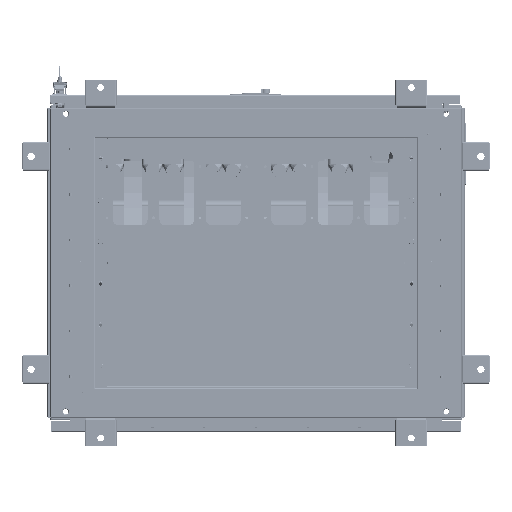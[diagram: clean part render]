
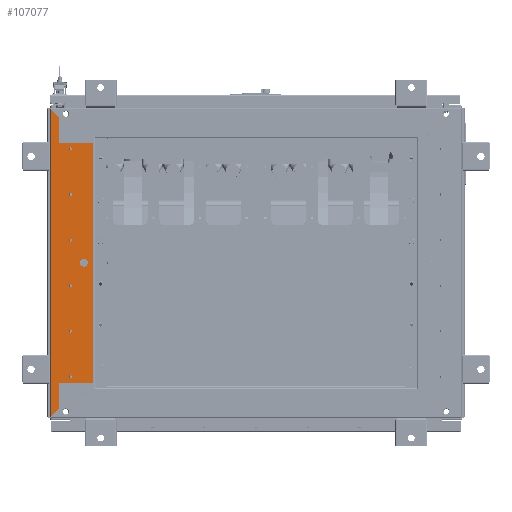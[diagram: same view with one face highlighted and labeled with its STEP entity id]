
A CAD part, front view. The second image highlights one B-rep face of the part: STEP entity #107077.
In plain terms, the highlighted planar face has unit normal (0, -1, 0).
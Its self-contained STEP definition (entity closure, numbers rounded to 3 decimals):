
#106132=DIRECTION('',(-1.,0.,0.));
#106133=VECTOR('',#106132,464.);
#106134=CARTESIAN_POINT('',(232.,-1.5,41.5));
#106135=LINE('',#106134,#106133);
#106140=DIRECTION('',(0.,0.,1.));
#106141=VECTOR('',#106140,66.5);
#106142=CARTESIAN_POINT('',(232.,-1.5,-25.));
#106143=LINE('',#106142,#106141);
#106156=DIRECTION('',(0.707,0.,-0.707));
#106157=VECTOR('',#106156,20.506);
#106158=CARTESIAN_POINT('',(282.,-1.5,-25.));
#106159=LINE('',#106158,#106157);
#106160=DIRECTION('',(0.707,0.,0.707));
#106161=VECTOR('',#106160,20.506);
#106162=CARTESIAN_POINT('',(-296.5,-1.5,-39.5));
#106163=LINE('',#106162,#106161);
#106164=DIRECTION('',(1.,0.,0.));
#106165=VECTOR('',#106164,50.);
#106166=CARTESIAN_POINT('',(-282.,-1.5,-25.));
#106167=LINE('',#106166,#106165);
#106168=DIRECTION('',(0.,0.,1.));
#106169=VECTOR('',#106168,66.5);
#106170=CARTESIAN_POINT('',(-232.,-1.5,-25.));
#106171=LINE('',#106170,#106169);
#106172=DIRECTION('',(1.,0.,0.));
#106173=VECTOR('',#106172,50.);
#106174=CARTESIAN_POINT('',(232.,-1.5,-25.));
#106175=LINE('',#106174,#106173);
#106176=CARTESIAN_POINT('',(220.,-1.5,-2.5));
#106177=DIRECTION('',(0.,-1.,0.));
#106178=DIRECTION('',(1.,0.,0.));
#106179=AXIS2_PLACEMENT_3D('',#106176,#106177,#106178);
#106181=CARTESIAN_POINT('',(220.,-1.5,-2.5));
#106182=DIRECTION('',(0.,-1.,0.));
#106183=DIRECTION('',(-1.,0.,0.));
#106184=AXIS2_PLACEMENT_3D('',#106181,#106182,#106183);
#106186=CARTESIAN_POINT('',(132.,-1.5,-2.5));
#106187=DIRECTION('',(0.,-1.,0.));
#106188=DIRECTION('',(1.,0.,0.));
#106189=AXIS2_PLACEMENT_3D('',#106186,#106187,#106188);
#106191=CARTESIAN_POINT('',(132.,-1.5,-2.5));
#106192=DIRECTION('',(0.,-1.,0.));
#106193=DIRECTION('',(-1.,0.,0.));
#106194=AXIS2_PLACEMENT_3D('',#106191,#106192,#106193);
#106196=CARTESIAN_POINT('',(44.,-1.5,-2.5));
#106197=DIRECTION('',(0.,-1.,0.));
#106198=DIRECTION('',(1.,0.,0.));
#106199=AXIS2_PLACEMENT_3D('',#106196,#106197,#106198);
#106201=CARTESIAN_POINT('',(44.,-1.5,-2.5));
#106202=DIRECTION('',(0.,-1.,0.));
#106203=DIRECTION('',(-1.,0.,0.));
#106204=AXIS2_PLACEMENT_3D('',#106201,#106202,#106203);
#106206=CARTESIAN_POINT('',(-44.,-1.5,-2.5));
#106207=DIRECTION('',(0.,-1.,0.));
#106208=DIRECTION('',(1.,0.,0.));
#106209=AXIS2_PLACEMENT_3D('',#106206,#106207,#106208);
#106211=CARTESIAN_POINT('',(-44.,-1.5,-2.5));
#106212=DIRECTION('',(0.,-1.,0.));
#106213=DIRECTION('',(-1.,0.,0.));
#106214=AXIS2_PLACEMENT_3D('',#106211,#106212,#106213);
#106216=CARTESIAN_POINT('',(-132.,-1.5,-2.5));
#106217=DIRECTION('',(0.,-1.,0.));
#106218=DIRECTION('',(1.,0.,0.));
#106219=AXIS2_PLACEMENT_3D('',#106216,#106217,#106218);
#106221=CARTESIAN_POINT('',(-132.,-1.5,-2.5));
#106222=DIRECTION('',(0.,-1.,0.));
#106223=DIRECTION('',(-1.,0.,0.));
#106224=AXIS2_PLACEMENT_3D('',#106221,#106222,#106223);
#106226=CARTESIAN_POINT('',(-220.,-1.5,-2.5));
#106227=DIRECTION('',(0.,-1.,0.));
#106228=DIRECTION('',(1.,0.,0.));
#106229=AXIS2_PLACEMENT_3D('',#106226,#106227,#106228);
#106231=CARTESIAN_POINT('',(-220.,-1.5,-2.5));
#106232=DIRECTION('',(0.,-1.,0.));
#106233=DIRECTION('',(-1.,0.,0.));
#106234=AXIS2_PLACEMENT_3D('',#106231,#106232,#106233);
#106236=CARTESIAN_POINT('',(0.,-1.5,23.5));
#106237=DIRECTION('',(0.,-1.,0.));
#106238=DIRECTION('',(0.,0.,1.));
#106239=AXIS2_PLACEMENT_3D('',#106236,#106237,#106238);
#106241=CARTESIAN_POINT('',(0.,-1.5,23.5));
#106242=DIRECTION('',(0.,-1.,0.));
#106243=DIRECTION('',(0.,0.,-1.));
#106244=AXIS2_PLACEMENT_3D('',#106241,#106242,#106243);
#106266=DIRECTION('',(1.,0.,0.));
#106267=VECTOR('',#106266,593.);
#106268=CARTESIAN_POINT('',(-296.5,-1.5,-39.5));
#106269=LINE('',#106268,#106267);
#106538=CARTESIAN_POINT('',(296.5,-1.5,-39.5));
#106539=VERTEX_POINT('',#106538);
#106540=CARTESIAN_POINT('',(282.,-1.5,-25.));
#106541=VERTEX_POINT('',#106540);
#106546=CARTESIAN_POINT('',(-296.5,-1.5,-39.5));
#106547=VERTEX_POINT('',#106546);
#106549=CARTESIAN_POINT('',(-282.,-1.5,-25.));
#106550=VERTEX_POINT('',#106549);
#106551=CARTESIAN_POINT('',(-232.,-1.5,-25.));
#106552=VERTEX_POINT('',#106551);
#106553=CARTESIAN_POINT('',(-232.,-1.5,41.5));
#106554=VERTEX_POINT('',#106553);
#106555=CARTESIAN_POINT('',(232.,-1.5,41.5));
#106556=VERTEX_POINT('',#106555);
#106557=CARTESIAN_POINT('',(232.,-1.5,-25.));
#106558=VERTEX_POINT('',#106557);
#106559=CARTESIAN_POINT('',(223.,-1.5,-2.5));
#106560=CARTESIAN_POINT('',(217.,-1.5,-2.5));
#106561=VERTEX_POINT('',#106559);
#106562=VERTEX_POINT('',#106560);
#106563=CARTESIAN_POINT('',(135.,-1.5,-2.5));
#106564=CARTESIAN_POINT('',(129.,-1.5,-2.5));
#106565=VERTEX_POINT('',#106563);
#106566=VERTEX_POINT('',#106564);
#106567=CARTESIAN_POINT('',(47.,-1.5,-2.5));
#106568=CARTESIAN_POINT('',(41.,-1.5,-2.5));
#106569=VERTEX_POINT('',#106567);
#106570=VERTEX_POINT('',#106568);
#106571=CARTESIAN_POINT('',(-41.,-1.5,-2.5));
#106572=CARTESIAN_POINT('',(-47.,-1.5,-2.5));
#106573=VERTEX_POINT('',#106571);
#106574=VERTEX_POINT('',#106572);
#106575=CARTESIAN_POINT('',(-129.,-1.5,-2.5));
#106576=CARTESIAN_POINT('',(-135.,-1.5,-2.5));
#106577=VERTEX_POINT('',#106575);
#106578=VERTEX_POINT('',#106576);
#106579=CARTESIAN_POINT('',(-217.,-1.5,-2.5));
#106580=CARTESIAN_POINT('',(-223.,-1.5,-2.5));
#106581=VERTEX_POINT('',#106579);
#106582=VERTEX_POINT('',#106580);
#106583=CARTESIAN_POINT('',(0.,-1.5,31.));
#106584=CARTESIAN_POINT('',(0.,-1.5,16.));
#106585=VERTEX_POINT('',#106583);
#106586=VERTEX_POINT('',#106584);
#107019=CARTESIAN_POINT('',(0.,-1.5,0.));
#107020=DIRECTION('',(0.,1.,0.));
#107021=DIRECTION('',(1.,0.,0.));
#107022=AXIS2_PLACEMENT_3D('',#107019,#107020,#107021);
#107023=PLANE('',#107022);
#107024=ORIENTED_EDGE('',*,*,#106709,.T.);
#107026=ORIENTED_EDGE('',*,*,#107025,.F.);
#107027=ORIENTED_EDGE('',*,*,#106944,.T.);
#107028=ORIENTED_EDGE('',*,*,#106958,.T.);
#107029=ORIENTED_EDGE('',*,*,#106972,.T.);
#107030=ORIENTED_EDGE('',*,*,#106985,.F.);
#107031=ORIENTED_EDGE('',*,*,#107000,.F.);
#107032=ORIENTED_EDGE('',*,*,#107013,.T.);
#107033=EDGE_LOOP('',(#107024,#107026,#107027,#107028,#107029,#107030,#107031,
#107032));
#107034=FACE_OUTER_BOUND('',#107033,.F.);
#107036=ORIENTED_EDGE('',*,*,#107035,.T.);
#107038=ORIENTED_EDGE('',*,*,#107037,.T.);
#107039=EDGE_LOOP('',(#107036,#107038));
#107040=FACE_BOUND('',#107039,.F.);
#107042=ORIENTED_EDGE('',*,*,#107041,.T.);
#107044=ORIENTED_EDGE('',*,*,#107043,.T.);
#107045=EDGE_LOOP('',(#107042,#107044));
#107046=FACE_BOUND('',#107045,.F.);
#107048=ORIENTED_EDGE('',*,*,#107047,.T.);
#107050=ORIENTED_EDGE('',*,*,#107049,.T.);
#107051=EDGE_LOOP('',(#107048,#107050));
#107052=FACE_BOUND('',#107051,.F.);
#107054=ORIENTED_EDGE('',*,*,#107053,.T.);
#107056=ORIENTED_EDGE('',*,*,#107055,.T.);
#107057=EDGE_LOOP('',(#107054,#107056));
#107058=FACE_BOUND('',#107057,.F.);
#107060=ORIENTED_EDGE('',*,*,#107059,.T.);
#107062=ORIENTED_EDGE('',*,*,#107061,.T.);
#107063=EDGE_LOOP('',(#107060,#107062));
#107064=FACE_BOUND('',#107063,.F.);
#107066=ORIENTED_EDGE('',*,*,#107065,.T.);
#107068=ORIENTED_EDGE('',*,*,#107067,.T.);
#107069=EDGE_LOOP('',(#107066,#107068));
#107070=FACE_BOUND('',#107069,.F.);
#107072=ORIENTED_EDGE('',*,*,#107071,.T.);
#107074=ORIENTED_EDGE('',*,*,#107073,.T.);
#107075=EDGE_LOOP('',(#107072,#107074));
#107076=FACE_BOUND('',#107075,.F.);
#107077=ADVANCED_FACE('',(#107034,#107040,#107046,#107052,#107058,#107064,
#107070,#107076),#107023,.F.);
#106180=CIRCLE('',#106179,3.);
#106185=CIRCLE('',#106184,3.);
#106190=CIRCLE('',#106189,3.);
#106195=CIRCLE('',#106194,3.);
#106200=CIRCLE('',#106199,3.);
#106205=CIRCLE('',#106204,3.);
#106210=CIRCLE('',#106209,3.);
#106215=CIRCLE('',#106214,3.);
#106220=CIRCLE('',#106219,3.);
#106225=CIRCLE('',#106224,3.);
#106230=CIRCLE('',#106229,3.);
#106235=CIRCLE('',#106234,3.);
#106240=CIRCLE('',#106239,7.5);
#106245=CIRCLE('',#106244,7.5);
#106709=EDGE_CURVE('',#106541,#106539,#106159,.T.);
#106944=EDGE_CURVE('',#106547,#106550,#106163,.T.);
#106958=EDGE_CURVE('',#106550,#106552,#106167,.T.);
#106972=EDGE_CURVE('',#106552,#106554,#106171,.T.);
#106985=EDGE_CURVE('',#106556,#106554,#106135,.T.);
#107000=EDGE_CURVE('',#106558,#106556,#106143,.T.);
#107013=EDGE_CURVE('',#106558,#106541,#106175,.T.);
#107025=EDGE_CURVE('',#106547,#106539,#106269,.T.);
#107035=EDGE_CURVE('',#106561,#106562,#106180,.T.);
#107037=EDGE_CURVE('',#106562,#106561,#106185,.T.);
#107041=EDGE_CURVE('',#106565,#106566,#106190,.T.);
#107043=EDGE_CURVE('',#106566,#106565,#106195,.T.);
#107047=EDGE_CURVE('',#106569,#106570,#106200,.T.);
#107049=EDGE_CURVE('',#106570,#106569,#106205,.T.);
#107053=EDGE_CURVE('',#106573,#106574,#106210,.T.);
#107055=EDGE_CURVE('',#106574,#106573,#106215,.T.);
#107059=EDGE_CURVE('',#106577,#106578,#106220,.T.);
#107061=EDGE_CURVE('',#106578,#106577,#106225,.T.);
#107065=EDGE_CURVE('',#106581,#106582,#106230,.T.);
#107067=EDGE_CURVE('',#106582,#106581,#106235,.T.);
#107071=EDGE_CURVE('',#106585,#106586,#106240,.T.);
#107073=EDGE_CURVE('',#106586,#106585,#106245,.T.);
